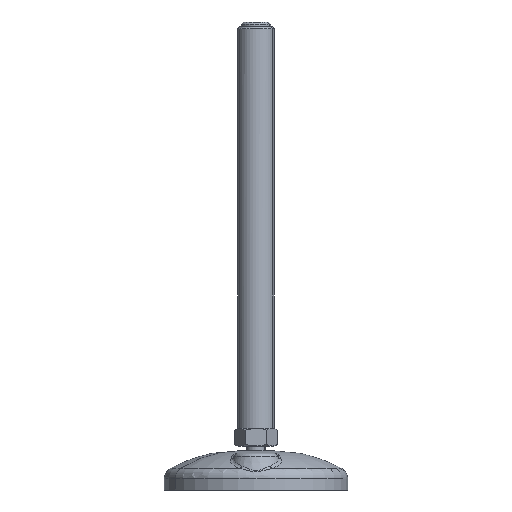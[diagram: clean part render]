
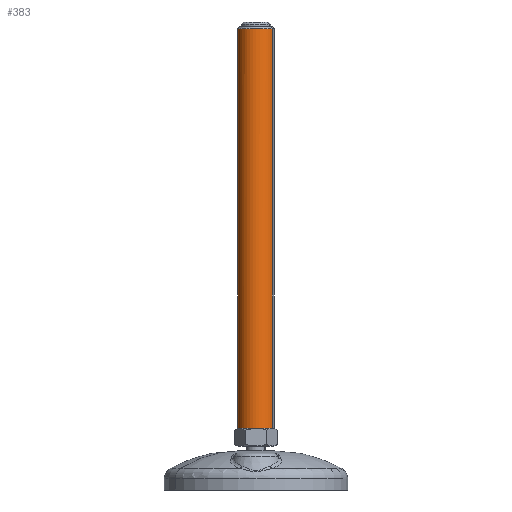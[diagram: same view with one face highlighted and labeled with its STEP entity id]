
A CAD part, left-side view. The second image highlights one B-rep face of the part: STEP entity #383.
In plain terms, the highlighted cylindrical face has radius 8 mm (diameter 16 mm), a partial arc.
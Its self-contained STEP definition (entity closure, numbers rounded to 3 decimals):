
#157=CARTESIAN_POINT('Vertex',(3.835,7.021,187.5)) ;
#159=CARTESIAN_POINT('Vertex',(-3.835,-7.021,187.5)) ;
#188=CARTESIAN_POINT('Axis2P3D Location',(0.,0.,187.5)) ;
#329=CARTESIAN_POINT('Axis2P3D Location',(0.,0.,92.75)) ;
#334=CARTESIAN_POINT('Axis2P3D Location',(0.,0.,13.5)) ;
#338=CARTESIAN_POINT('Vertex',(-4.,6.928,13.5)) ;
#340=CARTESIAN_POINT('Vertex',(3.835,7.021,13.5)) ;
#343=CARTESIAN_POINT('Axis2P3D Location',(0.,0.,13.5)) ;
#347=CARTESIAN_POINT('Vertex',(-8.,0.,13.5)) ;
#350=CARTESIAN_POINT('Axis2P3D Location',(0.,0.,13.5)) ;
#354=CARTESIAN_POINT('Vertex',(-4.,-6.928,13.5)) ;
#357=CARTESIAN_POINT('Axis2P3D Location',(0.,0.,13.5)) ;
#361=CARTESIAN_POINT('Vertex',(-3.835,-7.021,13.5)) ;
#364=CARTESIAN_POINT('Line Origine',(-3.835,-7.021,100.5)) ;
#369=CARTESIAN_POINT('Line Origine',(3.835,7.021,100.5)) ;
#189=DIRECTION('Axis2P3D Direction',(0.,0.,-1.)) ;
#330=DIRECTION('Axis2P3D Direction',(0.,0.,-1.)) ;
#331=DIRECTION('Axis2P3D XDirection',(0.479,0.878,0.)) ;
#335=DIRECTION('Axis2P3D Direction',(0.,0.,-1.)) ;
#344=DIRECTION('Axis2P3D Direction',(0.,0.,-1.)) ;
#351=DIRECTION('Axis2P3D Direction',(0.,0.,-1.)) ;
#358=DIRECTION('Axis2P3D Direction',(0.,0.,-1.)) ;
#365=DIRECTION('Vector Direction',(0.,0.,-1.)) ;
#370=DIRECTION('Vector Direction',(0.,0.,-1.)) ;
#190=AXIS2_PLACEMENT_3D('Circle Axis2P3D',#188,#189,$) ;
#332=AXIS2_PLACEMENT_3D('Cylinder Axis2P3D',#329,#330,#331) ;
#336=AXIS2_PLACEMENT_3D('Circle Axis2P3D',#334,#335,$) ;
#345=AXIS2_PLACEMENT_3D('Circle Axis2P3D',#343,#344,$) ;
#352=AXIS2_PLACEMENT_3D('Circle Axis2P3D',#350,#351,$) ;
#359=AXIS2_PLACEMENT_3D('Circle Axis2P3D',#357,#358,$) ;
#375=ORIENTED_EDGE('',*,*,#342,.F.) ;
#376=ORIENTED_EDGE('',*,*,#349,.F.) ;
#377=ORIENTED_EDGE('',*,*,#356,.F.) ;
#378=ORIENTED_EDGE('',*,*,#363,.F.) ;
#379=ORIENTED_EDGE('',*,*,#368,.T.) ;
#380=ORIENTED_EDGE('',*,*,#192,.T.) ;
#381=ORIENTED_EDGE('',*,*,#373,.F.) ;
#366=VECTOR('Line Direction',#365,1.) ;
#371=VECTOR('Line Direction',#370,1.) ;
#383=ADVANCED_FACE('PartBody',(#382),#333,.T.) ;
#191=CIRCLE('generated circle',#190,8.) ;
#337=CIRCLE('generated circle',#336,8.) ;
#346=CIRCLE('generated circle',#345,8.) ;
#353=CIRCLE('generated circle',#352,8.) ;
#360=CIRCLE('generated circle',#359,8.) ;
#333=CYLINDRICAL_SURFACE('generated cylinder',#332,8.) ;
#192=EDGE_CURVE('',#160,#158,#191,.T.) ;
#342=EDGE_CURVE('',#339,#341,#337,.T.) ;
#349=EDGE_CURVE('',#348,#339,#346,.T.) ;
#356=EDGE_CURVE('',#355,#348,#353,.T.) ;
#363=EDGE_CURVE('',#362,#355,#360,.T.) ;
#368=EDGE_CURVE('',#362,#160,#367,.F.) ;
#373=EDGE_CURVE('',#341,#158,#372,.F.) ;
#374=EDGE_LOOP('',(#375,#376,#377,#378,#379,#380,#381)) ;
#382=FACE_OUTER_BOUND('',#374,.T.) ;
#367=LINE('Line',#364,#366) ;
#372=LINE('Line',#369,#371) ;
#158=VERTEX_POINT('',#157) ;
#160=VERTEX_POINT('',#159) ;
#339=VERTEX_POINT('',#338) ;
#341=VERTEX_POINT('',#340) ;
#348=VERTEX_POINT('',#347) ;
#355=VERTEX_POINT('',#354) ;
#362=VERTEX_POINT('',#361) ;
